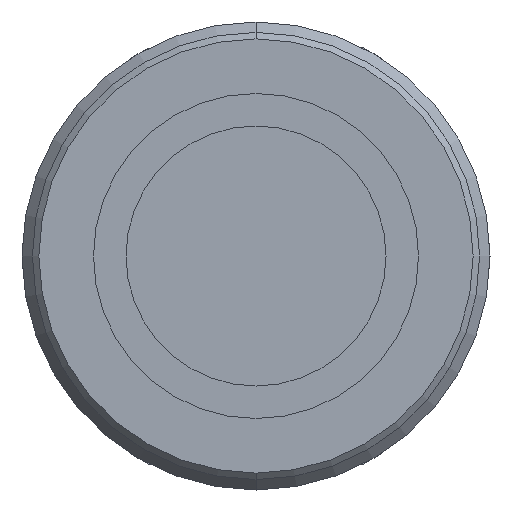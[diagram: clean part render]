
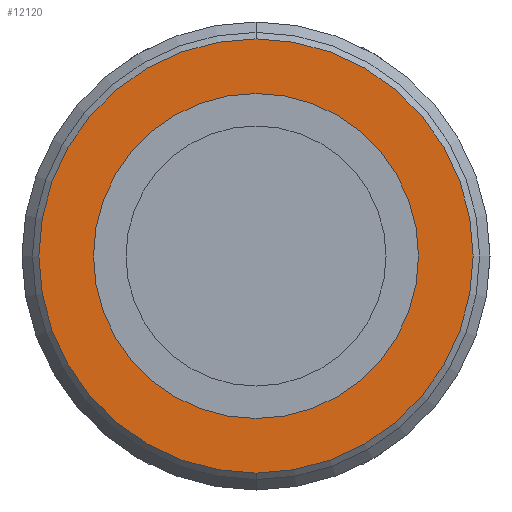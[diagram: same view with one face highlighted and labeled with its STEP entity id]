
A CAD part, front view. The second image highlights one B-rep face of the part: STEP entity #12120.
In plain terms, the highlighted planar face has unit normal (0, -1, 0).
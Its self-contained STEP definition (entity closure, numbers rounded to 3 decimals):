
#78 = DIRECTION ( 'NONE',  ( 0., 0., -1. ) ) ;
#1423 = AXIS2_PLACEMENT_3D ( 'NONE', #6448, #1606, #8398 ) ;
#1606 = DIRECTION ( 'NONE',  ( 0., 1., 0. ) ) ;
#1975 = ORIENTED_EDGE ( 'NONE', *, *, #8987, .F. ) ;
#2298 = CARTESIAN_POINT ( 'NONE',  ( 0., -40.399, 12.5 ) ) ;
#3005 = DIRECTION ( 'NONE',  ( 0., -1., 0. ) ) ;
#3428 = CIRCLE ( 'NONE', #11602, 12.5 ) ;
#3677 = ORIENTED_EDGE ( 'NONE', *, *, #11908, .T. ) ;
#4506 = PLANE ( 'NONE',  #1423 ) ;
#5149 = CARTESIAN_POINT ( 'NONE',  ( 0., -40.399, 0. ) ) ;
#5351 = DIRECTION ( 'NONE',  ( 0., -1., 0. ) ) ;
#5528 = CARTESIAN_POINT ( 'NONE',  ( 0., -40.399, 16.7 ) ) ;
#5882 = DIRECTION ( 'NONE',  ( 0., -1., 0. ) ) ;
#6060 = AXIS2_PLACEMENT_3D ( 'NONE', #8822, #3005, #9787 ) ;
#6117 = DIRECTION ( 'NONE',  ( 0., 0., -1. ) ) ;
#6326 = FACE_OUTER_BOUND ( 'NONE', #6399, .T. ) ;
#6353 = CARTESIAN_POINT ( 'NONE',  ( 0., -40.399, -16.7 ) ) ;
#6399 = EDGE_LOOP ( 'NONE', ( #11532, #3677 ) ) ;
#6448 = CARTESIAN_POINT ( 'NONE',  ( -16.7, -40.399, 0. ) ) ;
#6822 = AXIS2_PLACEMENT_3D ( 'NONE', #11692, #5882, #78 ) ;
#6877 = AXIS2_PLACEMENT_3D ( 'NONE', #5149, #11926, #6117 ) ;
#7159 = VERTEX_POINT ( 'NONE', #6353 ) ;
#7345 = VERTEX_POINT ( 'NONE', #5528 ) ;
#7888 = CIRCLE ( 'NONE', #6822, 12.5 ) ;
#8398 = DIRECTION ( 'NONE',  ( 0., 0., 1. ) ) ;
#8724 = EDGE_CURVE ( 'NONE', #9762, #8990, #3428, .T. ) ;
#8822 = CARTESIAN_POINT ( 'NONE',  ( 0., -40.399, 0. ) ) ;
#8987 = EDGE_CURVE ( 'NONE', #8990, #9762, #7888, .T. ) ;
#8990 = VERTEX_POINT ( 'NONE', #9740 ) ;
#9213 = FACE_BOUND ( 'NONE', #11693, .T. ) ;
#9740 = CARTESIAN_POINT ( 'NONE',  ( 0., -40.399, -12.5 ) ) ;
#9762 = VERTEX_POINT ( 'NONE', #2298 ) ;
#9787 = DIRECTION ( 'NONE',  ( 0., 0., -1. ) ) ;
#10131 = CIRCLE ( 'NONE', #6060, 16.7 ) ;
#10845 = EDGE_CURVE ( 'NONE', #7345, #7159, #10131, .T. ) ;
#11147 = CARTESIAN_POINT ( 'NONE',  ( 0., -40.399, 0. ) ) ;
#11532 = ORIENTED_EDGE ( 'NONE', *, *, #10845, .T. ) ;
#11602 = AXIS2_PLACEMENT_3D ( 'NONE', #11147, #5351, #12121 ) ;
#11692 = CARTESIAN_POINT ( 'NONE',  ( 0., -40.399, 0. ) ) ;
#11693 = EDGE_LOOP ( 'NONE', ( #1975, #12214 ) ) ;
#11908 = EDGE_CURVE ( 'NONE', #7159, #7345, #12377, .T. ) ;
#11926 = DIRECTION ( 'NONE',  ( 0., -1., 0. ) ) ;
#12120 = ADVANCED_FACE ( 'NONE', ( #9213, #6326 ), #4506, .F. ) ;
#12121 = DIRECTION ( 'NONE',  ( 0., 0., -1. ) ) ;
#12214 = ORIENTED_EDGE ( 'NONE', *, *, #8724, .F. ) ;
#12377 = CIRCLE ( 'NONE', #6877, 16.7 ) ;
